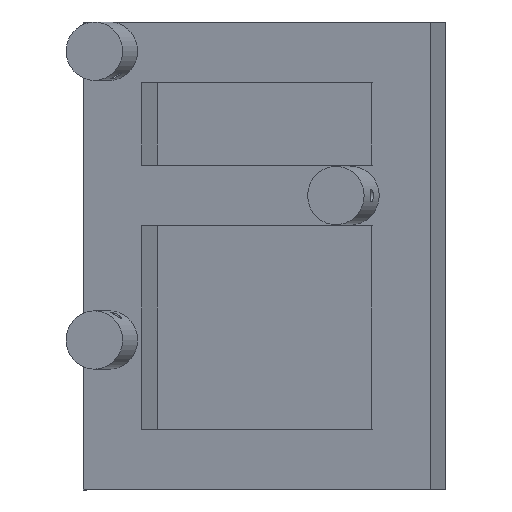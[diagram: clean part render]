
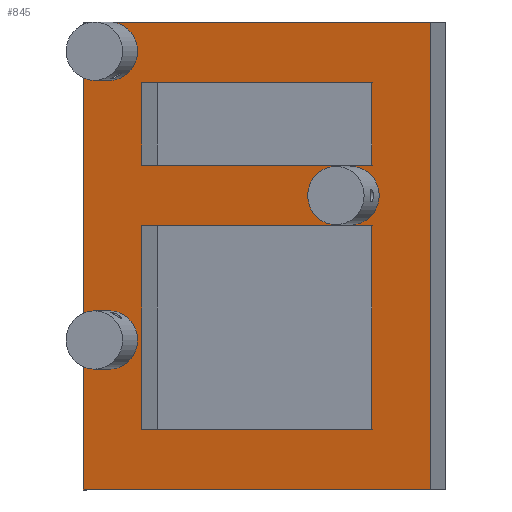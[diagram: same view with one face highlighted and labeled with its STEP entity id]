
A CAD part, left-side view. The second image highlights one B-rep face of the part: STEP entity #845.
In plain terms, the highlighted planar face has unit normal (-0.966, 0.259, 0).
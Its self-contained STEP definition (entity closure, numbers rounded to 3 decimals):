
#60=FACE_BOUND('',#199,.T.);
#61=FACE_BOUND('',#200,.T.);
#62=FACE_BOUND('',#201,.T.);
#63=FACE_BOUND('',#202,.T.);
#64=FACE_BOUND('',#203,.T.);
#141=FACE_OUTER_BOUND('',#198,.T.);
#198=EDGE_LOOP('',(#617,#618,#619,#620));
#199=EDGE_LOOP('',(#621,#622,#623,#624));
#200=EDGE_LOOP('',(#625,#626,#627,#628));
#201=EDGE_LOOP('',(#629));
#202=EDGE_LOOP('',(#630));
#203=EDGE_LOOP('',(#631));
#279=CIRCLE('',#904,20.9);
#280=CIRCLE('',#905,20.9);
#281=CIRCLE('',#906,20.9);
#298=LINE('',#1805,#342);
#300=LINE('',#1811,#344);
#303=LINE('',#1818,#347);
#311=LINE('',#1833,#355);
#321=LINE('',#1858,#365);
#322=LINE('',#1860,#366);
#323=LINE('',#1861,#367);
#324=LINE('',#1863,#368);
#325=LINE('',#1864,#369);
#326=LINE('',#1866,#370);
#327=LINE('',#1868,#371);
#328=LINE('',#1869,#372);
#342=VECTOR('',#996,68.5);
#344=VECTOR('',#1000,168.8);
#347=VECTOR('',#1005,297.321);
#355=VECTOR('',#1015,197.321);
#365=VECTOR('',#1037,387.3);
#366=VECTOR('',#1038,297.321);
#367=VECTOR('',#1039,387.3);
#368=VECTOR('',#1040,168.8);
#369=VECTOR('',#1041,197.321);
#370=VECTOR('',#1042,197.321);
#371=VECTOR('',#1043,68.5);
#372=VECTOR('',#1044,197.321);
#398=VERTEX_POINT('',#1799);
#400=VERTEX_POINT('',#1803);
#401=VERTEX_POINT('',#1807);
#403=VERTEX_POINT('',#1810);
#405=VERTEX_POINT('',#1816);
#406=VERTEX_POINT('',#1817);
#412=VERTEX_POINT('',#1831);
#421=VERTEX_POINT('',#1857);
#422=VERTEX_POINT('',#1859);
#423=VERTEX_POINT('',#1862);
#424=VERTEX_POINT('',#1865);
#425=VERTEX_POINT('',#1867);
#426=VERTEX_POINT('',#1870);
#427=VERTEX_POINT('',#1872);
#428=VERTEX_POINT('',#1874);
#480=EDGE_CURVE('',#400,#398,#298,.T.);
#482=EDGE_CURVE('',#401,#403,#300,.T.);
#485=EDGE_CURVE('',#405,#406,#303,.T.);
#493=EDGE_CURVE('',#412,#401,#311,.T.);
#507=EDGE_CURVE('',#406,#421,#321,.T.);
#508=EDGE_CURVE('',#421,#422,#322,.T.);
#509=EDGE_CURVE('',#405,#422,#323,.T.);
#510=EDGE_CURVE('',#412,#423,#324,.T.);
#511=EDGE_CURVE('',#403,#423,#325,.T.);
#512=EDGE_CURVE('',#400,#424,#326,.T.);
#513=EDGE_CURVE('',#424,#425,#327,.T.);
#514=EDGE_CURVE('',#398,#425,#328,.T.);
#515=EDGE_CURVE('',#426,#426,#279,.T.);
#516=EDGE_CURVE('',#427,#427,#280,.T.);
#517=EDGE_CURVE('',#428,#428,#281,.T.);
#617=ORIENTED_EDGE('',*,*,#507,.T.);
#618=ORIENTED_EDGE('',*,*,#508,.T.);
#619=ORIENTED_EDGE('',*,*,#509,.F.);
#620=ORIENTED_EDGE('',*,*,#485,.T.);
#621=ORIENTED_EDGE('',*,*,#493,.F.);
#622=ORIENTED_EDGE('',*,*,#510,.T.);
#623=ORIENTED_EDGE('',*,*,#511,.F.);
#624=ORIENTED_EDGE('',*,*,#482,.F.);
#625=ORIENTED_EDGE('',*,*,#480,.F.);
#626=ORIENTED_EDGE('',*,*,#512,.T.);
#627=ORIENTED_EDGE('',*,*,#513,.T.);
#628=ORIENTED_EDGE('',*,*,#514,.F.);
#629=ORIENTED_EDGE('',*,*,#515,.F.);
#630=ORIENTED_EDGE('',*,*,#516,.F.);
#631=ORIENTED_EDGE('',*,*,#517,.F.);
#766=PLANE('',#903);
#845=ADVANCED_FACE('',(#141,#60,#61,#62,#63,#64),#766,.T.);
#903=AXIS2_PLACEMENT_3D('',#1856,#1035,#1036);
#904=AXIS2_PLACEMENT_3D('',#1871,#1045,#1046);
#905=AXIS2_PLACEMENT_3D('',#1873,#1047,#1048);
#906=AXIS2_PLACEMENT_3D('',#1875,#1049,#1050);
#996=DIRECTION('',(0.,0.,1.));
#1000=DIRECTION('',(0.,0.,1.));
#1005=DIRECTION('',(-0.259,-0.966,0.));
#1015=DIRECTION('',(-0.259,-0.966,0.));
#1035=DIRECTION('center_axis',(-0.966,0.259,0.));
#1036=DIRECTION('ref_axis',(0.,0.,1.));
#1037=DIRECTION('',(0.,0.,1.));
#1038=DIRECTION('',(0.259,0.966,0.));
#1039=DIRECTION('',(0.,0.,1.));
#1040=DIRECTION('',(0.,0.,1.));
#1041=DIRECTION('',(0.259,0.966,0.));
#1042=DIRECTION('',(0.259,0.966,0.));
#1043=DIRECTION('',(0.,0.,1.));
#1044=DIRECTION('',(0.259,0.966,0.));
#1045=DIRECTION('center_axis',(-0.966,0.259,0.));
#1046=DIRECTION('ref_axis',(0.129,0.483,-0.866));
#1047=DIRECTION('center_axis',(-0.966,0.259,0.));
#1048=DIRECTION('ref_axis',(0.129,0.483,0.866));
#1049=DIRECTION('center_axis',(-0.966,0.259,0.));
#1050=DIRECTION('ref_axis',(-0.259,-0.966,0.));
#1799=CARTESIAN_POINT('',(-35.362,37.064,313.15));
#1803=CARTESIAN_POINT('',(-35.362,37.064,244.65));
#1805=CARTESIAN_POINT('',(-35.362,37.064,-24.15));
#1807=CARTESIAN_POINT('',(-35.362,37.064,25.85));
#1810=CARTESIAN_POINT('',(-35.362,37.064,194.65));
#1811=CARTESIAN_POINT('',(-35.362,37.064,-24.15));
#1816=CARTESIAN_POINT('',(28.65,275.958,-24.15));
#1817=CARTESIAN_POINT('',(-48.303,-11.232,-24.15));
#1818=CARTESIAN_POINT('',(28.65,275.958,-24.15));
#1831=CARTESIAN_POINT('',(15.709,227.661,25.85));
#1833=CARTESIAN_POINT('',(28.65,275.958,25.85));
#1856=CARTESIAN_POINT('Origin',(-35.362,37.064,194.65));
#1857=CARTESIAN_POINT('',(-48.303,-11.232,363.15));
#1858=CARTESIAN_POINT('',(-48.303,-11.232,-24.15));
#1859=CARTESIAN_POINT('',(28.65,275.958,363.15));
#1860=CARTESIAN_POINT('',(-48.303,-11.232,363.15));
#1861=CARTESIAN_POINT('',(28.65,275.958,-24.15));
#1862=CARTESIAN_POINT('',(15.709,227.661,194.65));
#1863=CARTESIAN_POINT('',(15.709,227.661,-24.15));
#1864=CARTESIAN_POINT('',(-35.362,37.064,194.65));
#1865=CARTESIAN_POINT('',(15.709,227.661,244.65));
#1866=CARTESIAN_POINT('',(-35.362,37.064,244.65));
#1867=CARTESIAN_POINT('',(15.709,227.661,313.15));
#1868=CARTESIAN_POINT('',(15.709,227.661,-24.15));
#1869=CARTESIAN_POINT('',(-48.303,-11.232,313.15));
#1870=CARTESIAN_POINT('',(25.104,262.725,81.9));
#1871=CARTESIAN_POINT('Origin',(22.399,252.631,100.));
#1872=CARTESIAN_POINT('',(25.104,262.725,357.1));
#1873=CARTESIAN_POINT('Origin',(22.399,252.631,339.));
#1874=CARTESIAN_POINT('',(-35.362,37.064,232.716));
#1875=CARTESIAN_POINT('Origin',(-31.171,52.703,219.5));
